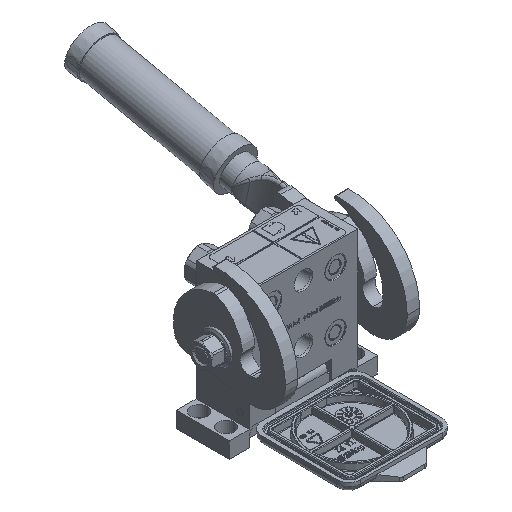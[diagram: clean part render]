
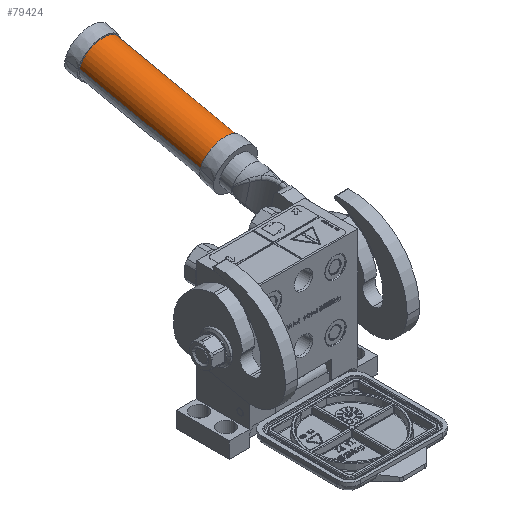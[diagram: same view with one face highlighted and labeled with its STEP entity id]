
A CAD part, isometric view. The second image highlights one B-rep face of the part: STEP entity #79424.
In plain terms, the highlighted cylindrical face has radius 16 mm (diameter 32 mm), a partial arc.
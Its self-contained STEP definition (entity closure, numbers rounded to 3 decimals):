
#79254=DIRECTION('',(0.,0.978,0.208));
#79255=VECTOR('',#79254,101.);
#79256=CARTESIAN_POINT('',(40.4,123.24,63.187));
#79257=LINE('',#79256,#79255);
#79258=DIRECTION('',(0.,0.978,0.208));
#79259=VECTOR('',#79258,101.);
#79260=CARTESIAN_POINT('',(72.4,123.24,63.187));
#79261=LINE('',#79260,#79259);
#79262=CARTESIAN_POINT('',(56.4,123.24,63.187));
#79263=DIRECTION('',(0.,0.978,0.208));
#79264=DIRECTION('',(-1.,0.,0.));
#79265=AXIS2_PLACEMENT_3D('',#79262,#79263,#79264);
#79277=CARTESIAN_POINT('',(56.4,222.033,84.186));
#79278=DIRECTION('',(0.,0.978,0.208));
#79279=DIRECTION('',(-1.,0.,0.));
#79280=AXIS2_PLACEMENT_3D('',#79277,#79278,#79279);
#79322=CARTESIAN_POINT('',(40.4,123.24,63.187));
#79323=CARTESIAN_POINT('',(40.4,222.033,84.186));
#79324=VERTEX_POINT('',#79322);
#79325=VERTEX_POINT('',#79323);
#79336=CARTESIAN_POINT('',(72.4,123.24,63.187));
#79337=CARTESIAN_POINT('',(72.4,222.033,84.186));
#79338=VERTEX_POINT('',#79336);
#79339=VERTEX_POINT('',#79337);
#79410=CARTESIAN_POINT('',(56.4,239.884,87.981));
#79411=DIRECTION('',(0.,-0.978,-0.208));
#79412=DIRECTION('',(1.,0.,0.));
#79413=AXIS2_PLACEMENT_3D('',#79410,#79411,#79412);
#79414=CYLINDRICAL_SURFACE('',#79413,16.);
#79416=ORIENTED_EDGE('',*,*,#79415,.T.);
#79418=ORIENTED_EDGE('',*,*,#79417,.T.);
#79420=ORIENTED_EDGE('',*,*,#79419,.F.);
#79421=ORIENTED_EDGE('',*,*,#79403,.F.);
#79422=EDGE_LOOP('',(#79416,#79418,#79420,#79421));
#79423=FACE_OUTER_BOUND('',#79422,.F.);
#79424=ADVANCED_FACE('',(#79423),#79414,.T.);
#79266=CIRCLE('',#79265,16.);
#79281=CIRCLE('',#79280,16.);
#79403=EDGE_CURVE('',#79324,#79338,#79266,.T.);
#79415=EDGE_CURVE('',#79324,#79325,#79257,.T.);
#79417=EDGE_CURVE('',#79325,#79339,#79281,.T.);
#79419=EDGE_CURVE('',#79338,#79339,#79261,.T.);
